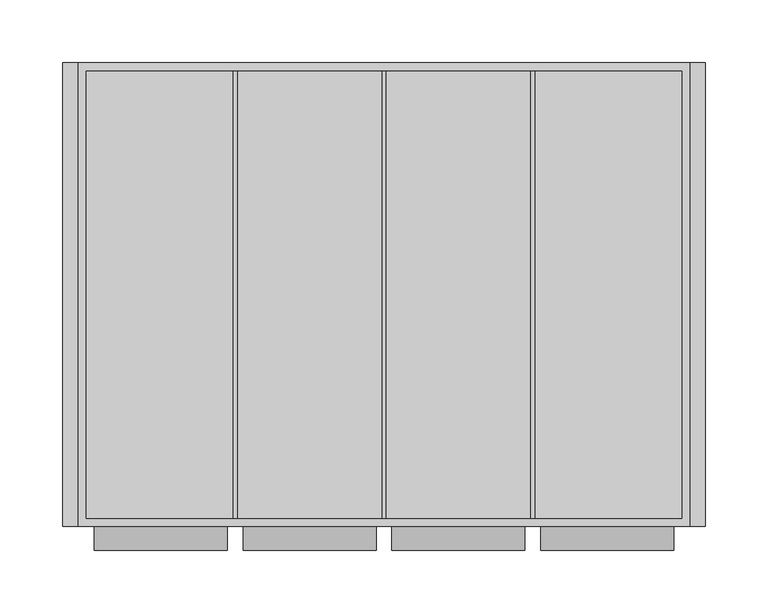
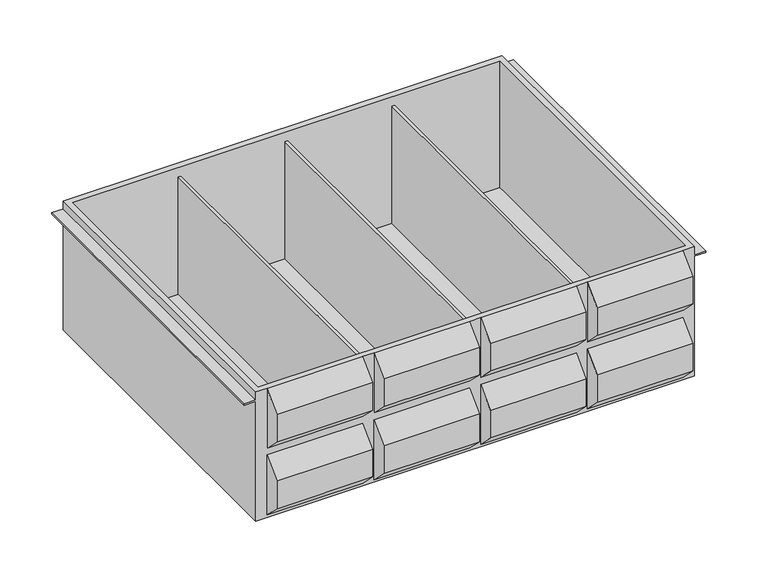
"""IFC4 building model written with IfcOpenShell, lengths in millimetres: furniture geometry, HermanMiller_CoStruc_CO565_Cassette Assembly : 6H x 15D x 20W."""

import ifcopenshell
import ifcopenshell.guid

model = None  # the IFC model being written
_history = None  # IfcOwnerHistory: only IFC2X3 demands one
_inside = {}  # id of a spatial element -> (the spatial element, [elements in it])
_under = {}  # id of a project, library or spatial element -> (it, [spatial elements below it])
_declared = {}  # id of a project -> (the project, [libraries it declares])
_typed = {}  # id of a type object -> (the type object, [elements of that type])
_made_of = {}  # id of a material, layer set ... -> (it, [elements and type objects made of it])


def new_model(schema):
    """Start an empty IFC model of exactly this schema.

    Asked for "IFC4X3", IfcOpenShell would pick the latest addendum, in which some entities
    have other attributes; the version numbers below select the first issue.
    IFC2X3 requires an IfcOwnerHistory on every rooted entity: one is made here for all.
    """
    global model, _history
    if schema == "IFC4X3":
        model = ifcopenshell.file(schema_version=(4, 3, 0, 0))
    else:
        model = ifcopenshell.file(schema=schema)
    _inside.clear()
    _under.clear()
    _declared.clear()
    _typed.clear()
    _made_of.clear()
    _history = None
    if model.schema == "IFC2X3":
        org = make("IfcOrganization", Name="unknown")
        user = make(
            "IfcPersonAndOrganization",
            ThePerson=make("IfcPerson", FamilyName="unknown"),
            TheOrganization=org,
        )
        app = make(
            "IfcApplication",
            ApplicationDeveloper=org,
            Version="unknown",
            ApplicationFullName="unknown",
            ApplicationIdentifier="unknown",
        )
        _history = make(
            "IfcOwnerHistory",
            OwningUser=user,
            OwningApplication=app,
            ChangeAction="ADDED",
            CreationDate=0,
        )
    return model


def make(cls, **values):
    """One entity of the class cls with the attributes given. An attribute that is None is left unset."""
    return model.create_entity(
        cls, **{name: value for name, value in values.items() if value is not None}
    )


def rooted(cls, **values):
    """An entity with a GlobalId (a new one), such as an element, a storey or a relation."""
    return make(cls, GlobalId=ifcopenshell.guid.new(), OwnerHistory=_history, **values)


def si_unit(unit_type, name, prefix=None):
    """IfcSIUnit, for example si_unit("LENGTHUNIT", "METRE", prefix="MILLI")."""
    return make("IfcSIUnit", UnitType=unit_type, Prefix=prefix, Name=name)


def assignment(units):
    """IfcUnitAssignment: the units of a project."""
    return None if units is None else make("IfcUnitAssignment", Units=units)


def point(xyz):
    """IfcCartesianPoint."""
    return None if xyz is None else make("IfcCartesianPoint", Coordinates=xyz)


def direction(xyz):
    """IfcDirection."""
    return None if xyz is None else make("IfcDirection", DirectionRatios=xyz)


def frame(location, z_axis=None, x_axis=None):
    """IfcAxis2Placement3D, a coordinate frame: its origin and axes. An axis left out is left unset."""
    return make(
        "IfcAxis2Placement3D",
        Location=point(location),
        Axis=direction(z_axis),
        RefDirection=direction(x_axis),
    )


def origin():
    """The frame at (0, 0, 0) with its axes left unset."""
    return frame((0.0, 0.0, 0.0))


def place(relative_to, where):
    """IfcLocalPlacement: puts the frame where relative to a parent placement (None: the world)."""
    return make(
        "IfcLocalPlacement", PlacementRelTo=relative_to, RelativePlacement=where
    )


def context(
    kind, dimensions, precision=None, world=None, true_north=None, identifier=None
):
    """IfcGeometricRepresentationContext, for example the 3D "Model" context."""
    return make(
        "IfcGeometricRepresentationContext",
        ContextIdentifier=identifier,
        ContextType=kind,
        CoordinateSpaceDimension=dimensions,
        Precision=precision,
        WorldCoordinateSystem=world,
        TrueNorth=true_north,
    )


def project(units=None, contexts=None):
    """IfcProject with its units and contexts."""
    return rooted(
        "IfcProject",
        Name="project",
        RepresentationContexts=contexts,
        UnitsInContext=assignment(units),
    )


def spatial(cls, under=None, at=None, **own):
    """A site, building, storey or space (cls), placed at a placement, below another one or the project."""
    s = rooted(cls, ObjectPlacement=at, **own)
    if under is not None:
        _under.setdefault(under.id(), (under, []))[1].append(s)
    return s


def faces_of(points, faces, orient=None, outer=None):
    """IfcFace entities. A face is a list of loops; a loop is a list of indices into points, from 0.

    orient and outer hold one flag for each loop. By default every Orientation is true, the
    first loop of a face is its IfcFaceOuterBound and the others are IfcFaceBound.
    """
    made = []
    for i, loops in enumerate(faces):
        bounds = []
        for j, loop in enumerate(loops):
            is_outer = j == 0 if outer is None else outer[i][j]
            bounds.append(
                make(
                    "IfcFaceOuterBound" if is_outer else "IfcFaceBound",
                    Bound=make("IfcPolyLoop", Polygon=[points[k] for k in loop]),
                    Orientation=True if orient is None else orient[i][j],
                )
            )
        made.append(make("IfcFace", Bounds=bounds))
    return made


def faceted_brep(points, faces, orient=None, outer=None, voids=None):
    """IfcFacetedBrep: a solid bounded by flat faces; with voids (closed shells), ...WithVoids."""
    shared = [point(p) for p in points]
    hull = make("IfcClosedShell", CfsFaces=faces_of(shared, faces, orient, outer))
    if voids is None:
        return make("IfcFacetedBrep", Outer=hull)
    return make(
        "IfcFacetedBrepWithVoids",
        Outer=hull,
        Voids=[
            make(cls, CfsFaces=faces_of(shared, fs, o, b)) for cls, fs, o, b in voids
        ],
    )


def shape(context_of_items, identifier, shape_type, items):
    """IfcShapeRepresentation: the items that make up one representation, for example the "Body"."""
    return make(
        "IfcShapeRepresentation",
        ContextOfItems=context_of_items,
        RepresentationIdentifier=identifier,
        RepresentationType=shape_type,
        Items=items,
    )


def source(mapping_origin, context_of_items, identifier, shape_type, items):
    """IfcRepresentationMap: a shape defined once, which mapped items show again and again."""
    return make(
        "IfcRepresentationMap",
        MappingOrigin=mapping_origin,
        MappedRepresentation=shape(context_of_items, identifier, shape_type, items),
    )


def transform(
    local_origin,
    x_axis=None,
    y_axis=None,
    z_axis=None,
    scale=None,
    scale2=None,
    scale3=None,
    uniform=True,
):
    """IfcCartesianTransformationOperator3D, or its non-uniform kind. x_axis, y_axis, z_axis: its Axis1, 2, 3."""
    if uniform:
        return make(
            "IfcCartesianTransformationOperator3D",
            Axis1=direction(x_axis),
            Axis2=direction(y_axis),
            LocalOrigin=point(local_origin),
            Scale=scale,
            Axis3=direction(z_axis),
        )
    return make(
        "IfcCartesianTransformationOperator3DnonUniform",
        Axis1=direction(x_axis),
        Axis2=direction(y_axis),
        LocalOrigin=point(local_origin),
        Scale=scale,
        Axis3=direction(z_axis),
        Scale2=scale2,
        Scale3=scale3,
    )


def mapped(mapping_source, mapping_target):
    """IfcMappedItem: shows the shape of a source again, moved by a transform."""
    return make(
        "IfcMappedItem", MappingSource=mapping_source, MappingTarget=mapping_target
    )


def made_of(thing, what):
    """Note that an element or type object is made of a material, layer set ...; save() writes the relation."""
    if what is not None:
        _made_of.setdefault(what.id(), (what, []))[1].append(thing)
    return thing


def element(
    cls,
    number,
    at=None,
    inside=None,
    cuts=None,
    type_object=None,
    material=None,
    context=None,
    identifier="Body",
    shape_type=None,
    held_by="IfcProductDefinitionShape",
    body=None,
    shapes=None,
    **own,
):
    """One element of the class cls, such as IfcWall. Its Tag is "e" and its number.

    at: its placement. inside: the storey or other place that contains it. cuts: it is an
    opening in that element (IfcRelVoidsElement). A single representation is given by context,
    identifier, shape_type and body (its items); several are given by shapes. held_by: the class
    of the entity that holds the representations. save() writes the other relations.
    """
    e = rooted(cls, Tag="e%d" % number, ObjectPlacement=at, **own)
    if body is not None:
        shapes = [shape(context, identifier, shape_type, body)]
    if shapes is not None:
        e.Representation = make(held_by, Representations=shapes)
    if inside is not None:
        _inside.setdefault(inside.id(), (inside, []))[1].append(e)
    if cuts is not None:
        rooted(
            "IfcRelVoidsElement", RelatingBuildingElement=cuts, RelatedOpeningElement=e
        )
    if type_object is not None:
        _typed.setdefault(type_object.id(), (type_object, []))[1].append(e)
    return made_of(e, material)


def aggregate(whole, parts):
    """IfcRelAggregates: a whole, such as a stair, and the parts it consists of."""
    return rooted("IfcRelAggregates", RelatingObject=whole, RelatedObjects=parts)


def save(model, path):
    """Write the relations noted so far, then the file.

    IfcRelAggregates (storeys below a building ...), IfcRelContainedInSpatialStructure (elements
    in a storey), IfcRelDefinesByType, IfcRelAssociatesMaterial and IfcRelDeclares: one each for
    every whole, place, type object, material and project.
    """
    for whole, parts in _under.values():
        aggregate(whole, parts)
    for where, things in _inside.values():
        rooted(
            "IfcRelContainedInSpatialStructure",
            RelatedElements=things,
            RelatingStructure=where,
        )
    for kind, things in _typed.values():
        rooted("IfcRelDefinesByType", RelatedObjects=things, RelatingType=kind)
    for what, things in _made_of.values():
        rooted("IfcRelAssociatesMaterial", RelatedObjects=things, RelatingMaterial=what)
    for by, libraries in _declared.values():
        rooted("IfcRelDeclares", RelatingContext=by, RelatedDefinitions=libraries)
    model.write(path)


def furniture_6345e87a(model_context):
    return source(origin(), model_context, "Body", "Brep", [
        faceted_brep([(-238.125, -176.2125, 1077.8109), (-250.825, -176.2125, 1077.8109), (-250.825, -176.2125, 1068.2986), (-263.525, -176.2125, 1068.2986), (-263.525, -176.2125, 1066.7111), (-250.825, -176.2125, 1066.7111), (-250.825, -176.2125, 925.4109), (238.125, -176.2125, 925.4109), (238.125, -176.2125, 1066.7111), (250.825, -176.2125, 1066.7111), (250.825, -176.2125, 1068.2986), (238.125, -176.2125, 1068.2986), (238.125, -176.2125, 1077.8109), (225.425, -176.2125, 1077.8109), (225.425, -176.2125, 1007.2226237), (119.0625, -176.2125, 1007.2226237), (119.0625, -176.2125, 1077.8109), (106.3625, -176.2125, 1077.8109), (106.3625, -176.2125, 1007.2226237), (0.0, -176.2125, 1007.2226237), (0.0, -176.2125, 1077.8109), (-12.7, -176.2125, 1077.8109), (-12.7, -176.2125, 1007.2226237), (-119.0625, -176.2125, 1007.2226237), (-119.0625, -176.2125, 1077.8109), (-131.7625, -176.2125, 1077.8109), (-131.7625, -176.2125, 1007.2226237), (-238.125, -176.2125, 1007.2226237), (-131.7625, -176.2125, 999.0253481), (-131.7625, -176.2125, 928.4370719), (-238.125, -176.2125, 928.4370719), (-238.125, -176.2125, 999.0253481), (-119.0625, -176.2125, 928.4370719), (-119.0625, -176.2125, 999.0253481), (-12.7, -176.2125, 999.0253481), (-12.7, -176.2125, 928.4370719), (106.3625, -176.2125, 999.0253481), (106.3625, -176.2125, 928.4370719), (0.0, -176.2125, 928.4370719), (0.0, -176.2125, 999.0253481), (119.0625, -176.2125, 928.4370719), (119.0625, -176.2125, 999.0253481), (225.425, -176.2125, 999.0253481), (225.425, -176.2125, 928.4370719), (-250.825, 195.2625, 1077.8109), (238.125, 195.2625, 1077.8109), (238.125, 195.2625, 1068.2986), (250.825, 195.2625, 1068.2986), (250.825, 195.2625, 1066.7111), (238.125, 195.2625, 1066.7111), (238.125, 195.2625, 925.4109), (-250.825, 195.2625, 925.4109), (-250.825, 195.2625, 1066.7111), (-263.525, 195.2625, 1066.7111), (-263.525, 195.2625, 1068.2986), (-250.825, 195.2625, 1068.2986), (231.775, -169.8625, 1077.8109), (-244.475, -169.8625, 1077.8109), (-244.475, 188.2775, 1077.8109), (231.775, 188.2775, 1077.8109), (-131.7625, -195.2625, 947.4870719), (-131.7625, -195.2625, 979.9753481), (-131.7625, -195.2625, 1058.7609), (-131.7625, -195.2625, 1026.2726237), (-238.125, -195.2625, 947.4870719), (-238.125, -195.2625, 979.9753481), (-238.125, -195.2625, 1026.2726237), (-238.125, -195.2625, 1058.7609), (231.775, -169.8625, 928.4370719), (231.775, 188.2775, 928.4370719), (114.3, 188.2775, 928.4370719), (114.3, -169.8625, 928.4370719), (-244.475, 188.2775, 928.4370719), (-244.475, -169.8625, 928.4370719), (-127.0, -169.8625, 928.4370719), (-127.0, 188.2775, 928.4370719), (-4.7625, -169.8625, 928.4370719), (111.125, -169.8625, 928.4370719), (111.125, 188.2775, 928.4370719), (-4.7625, 188.2775, 928.4370719), (-123.825, -169.8625, 928.4370719), (-7.9375, -169.8625, 928.4370719), (-7.9375, 188.2775, 928.4370719), (-123.825, 188.2775, 928.4370719), (114.3, -169.8625, 1066.7111), (111.125, -169.8625, 1066.7111), (-4.7625, -169.8625, 1066.7111), (-7.9375, -169.8625, 1066.7111), (-123.825, -169.8625, 1066.7111), (-127.0, -169.8625, 1066.7111), (-127.0, 188.2775, 1066.7111), (-123.825, 188.2775, 1066.7111), (-7.9375, 188.2775, 1066.7111), (-4.7625, 188.2775, 1066.7111), (111.125, 188.2775, 1066.7111), (114.3, 188.2775, 1066.7111), (-119.0625, -195.2625, 947.4870719), (-119.0625, -195.2625, 979.9753481), (-119.0625, -195.2625, 1026.2726237), (-119.0625, -195.2625, 1058.7609), (-12.7, -195.2625, 947.4870719), (-12.7, -195.2625, 979.9753481), (-12.7, -195.2625, 1058.7609), (-12.7, -195.2625, 1026.2726237), (106.3625, -195.2625, 947.4870719), (106.3625, -195.2625, 979.9753481), (106.3625, -195.2625, 1058.7609), (106.3625, -195.2625, 1026.2726237), (0.0, -195.2625, 947.4870719), (0.0, -195.2625, 979.9753481), (0.0, -195.2625, 1026.2726237), (0.0, -195.2625, 1058.7609), (119.0625, -195.2625, 947.4870719), (119.0625, -195.2625, 979.9753481), (119.0625, -195.2625, 1026.2726237), (119.0625, -195.2625, 1058.7609), (225.425, -195.2625, 947.4870719), (225.425, -195.2625, 979.9753481), (225.425, -195.2625, 1058.7609), (225.425, -195.2625, 1026.2726237)], [[[0, 1, 2, 3, 4, 5, 6, 7, 8, 9, 10, 11, 12, 13, 14, 15, 16, 17, 18, 19, 20, 21, 22, 23, 24, 25, 26, 27], [28, 29, 30, 31], [32, 33, 34, 35], [36, 37, 38, 39], [40, 41, 42, 43]], [[44, 45, 46, 47, 48, 49, 50, 51, 52, 53, 54, 55]], [[51, 50, 7, 6]], [[7, 50, 49, 8]], [[45, 12, 11, 46]], [[45, 44, 1, 0, 25, 24, 21, 20, 17, 16, 13, 12], [56, 57, 58, 59]], [[51, 6, 5, 52]], [[1, 44, 55, 2]], [[60, 29, 28, 61]], [[25, 62, 63, 26]], [[64, 65, 31, 30]], [[27, 66, 67, 0]], [[29, 60, 64, 30]], [[62, 25, 0, 67]], [[63, 62, 67, 66]], [[26, 63, 66, 27]], [[61, 28, 31, 65]], [[60, 61, 65, 64]], [[68, 69, 70, 71]], [[72, 73, 74, 75]], [[76, 77, 78, 79]], [[80, 81, 82, 83]], [[56, 68, 71, 84, 85, 77, 76, 86, 87, 81, 80, 88, 89, 74, 73, 57]], [[69, 68, 56, 59]], [[69, 59, 58, 72, 75, 90, 91, 83, 82, 92, 93, 79, 78, 94, 95, 70]], [[73, 72, 58, 57]], [[96, 97, 33, 32]], [[23, 98, 99, 24]], [[100, 35, 34, 101]], [[21, 102, 103, 22]], [[97, 96, 100, 101]], [[33, 97, 101, 34]], [[98, 23, 22, 103]], [[99, 98, 103, 102]], [[24, 99, 102, 21]], [[96, 32, 35, 100]], [[104, 37, 36, 105]], [[17, 106, 107, 18]], [[108, 109, 39, 38]], [[19, 110, 111, 20]], [[37, 104, 108, 38]], [[106, 17, 20, 111]], [[107, 106, 111, 110]], [[18, 107, 110, 19]], [[105, 36, 39, 109]], [[104, 105, 109, 108]], [[112, 113, 41, 40]], [[15, 114, 115, 16]], [[116, 43, 42, 117]], [[13, 118, 119, 14]], [[113, 112, 116, 117]], [[41, 113, 117, 42]], [[114, 15, 14, 119]], [[115, 114, 119, 118]], [[16, 115, 118, 13]], [[112, 40, 43, 116]], [[54, 53, 4, 3]], [[55, 54, 3, 2]], [[53, 52, 5, 4]], [[49, 48, 9, 8]], [[47, 46, 11, 10]], [[48, 47, 10, 9]], [[88, 91, 90, 89]], [[84, 95, 94, 85]], [[86, 93, 92, 87]], [[91, 88, 80, 83]], [[89, 90, 75, 74]], [[95, 84, 71, 70]], [[85, 94, 78, 77]], [[93, 86, 76, 79]], [[87, 92, 82, 81]]]),
    ])


if __name__ == "__main__":
    model = new_model("IFC4")
    model_context = context("Model", 3, world=origin())
    ifc_project = project(units=[si_unit("LENGTHUNIT", "METRE", prefix="MILLI")], contexts=[model_context])
    site = spatial("IfcSite", under=ifc_project)
    building = spatial("IfcBuilding", under=site)
    placement = place(None, origin())
    furniture_shape = furniture_6345e87a(model_context)
    element("IfcFurniture", 1, ObjectType="HermanMiller_CoStruc_CO565_Cassette Assembly : 6H x 15D x 20W", at=placement, inside=building, context=model_context, shape_type="MappedRepresentation", body=[
        mapped(furniture_shape, transform((0.0, 0.0, 0.0), x_axis=(1.0, 0.0, 0.0), y_axis=(0.0, 1.0, 0.0), z_axis=(0.0, 0.0, 1.0))),
    ])
    save(model, "model.ifc")
